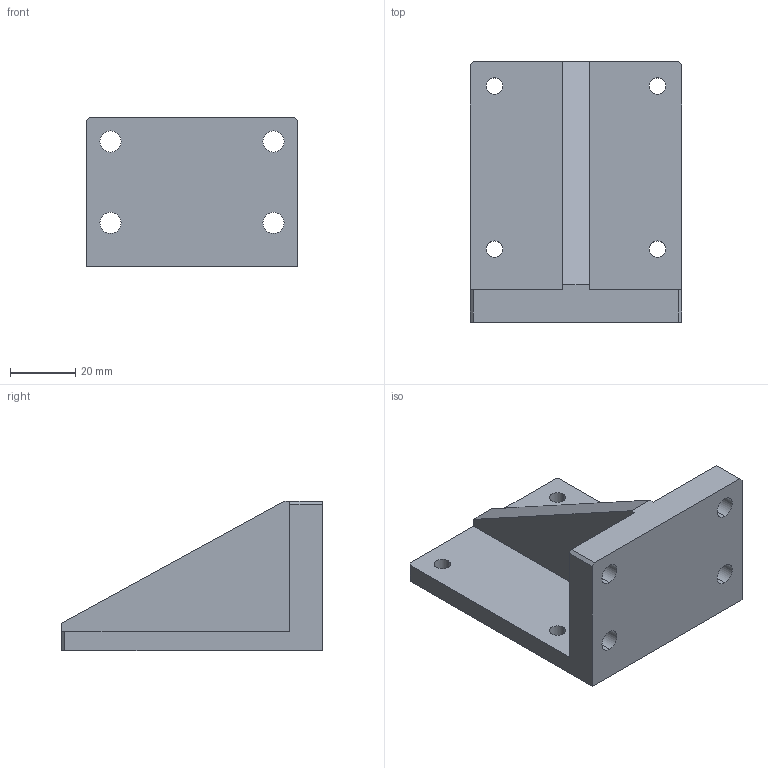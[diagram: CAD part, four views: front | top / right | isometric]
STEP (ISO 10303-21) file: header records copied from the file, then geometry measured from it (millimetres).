
FILE_DESCRIPTION (( 'STEP AP203' ), '1' );
FILE_NAME ('NFP-462-ZKIT.step', '2019-05-08T10:18:06', ( '' ), ( '' ), 'SwSTEP 2.0', 'SolidWorks 2017', '' );
FILE_SCHEMA (( 'CONFIG_CONTROL_DESIGN' ));
Length unit declared in the file: millimetre
Products named in the file (1): NFP-462-ZKIT
Bounding box: 65 x 80 x 46 mm (x, y, z)
Volume: 67510.4 mm3; surface area: 21696.5 mm2
Topology: 1 solids, 1 shells, 33 faces, 93 edges, 62 vertices
Faces by surface type: plane 17, cylinder 16
Entity records: 1188 total; most frequent: DIRECTION 193, CARTESIAN_POINT 189, ORIENTED_EDGE 186, EDGE_CURVE 93, AXIS2_PLACEMENT_3D 66, VERTEX_POINT 62, VECTOR 61, LINE 61
